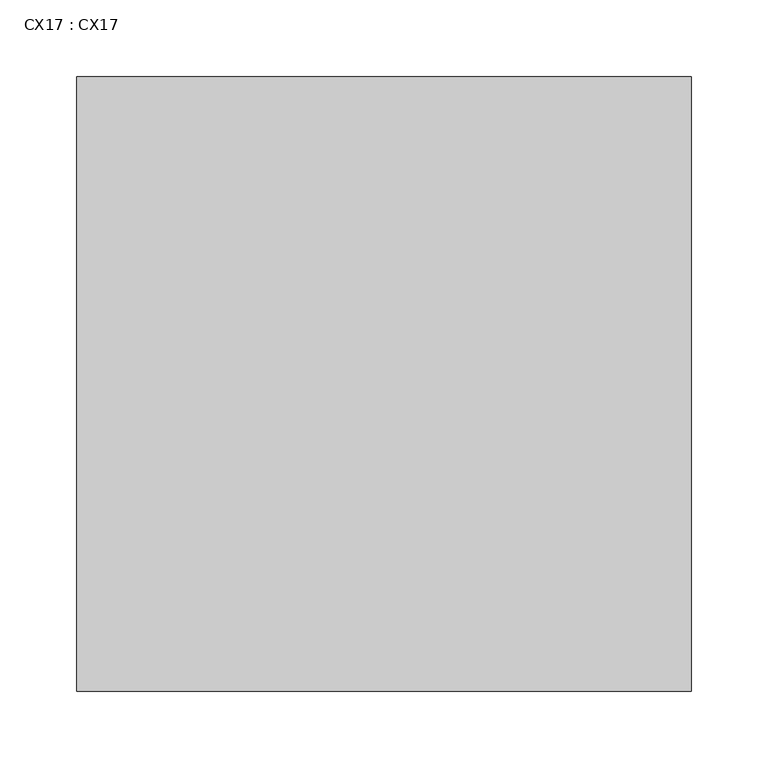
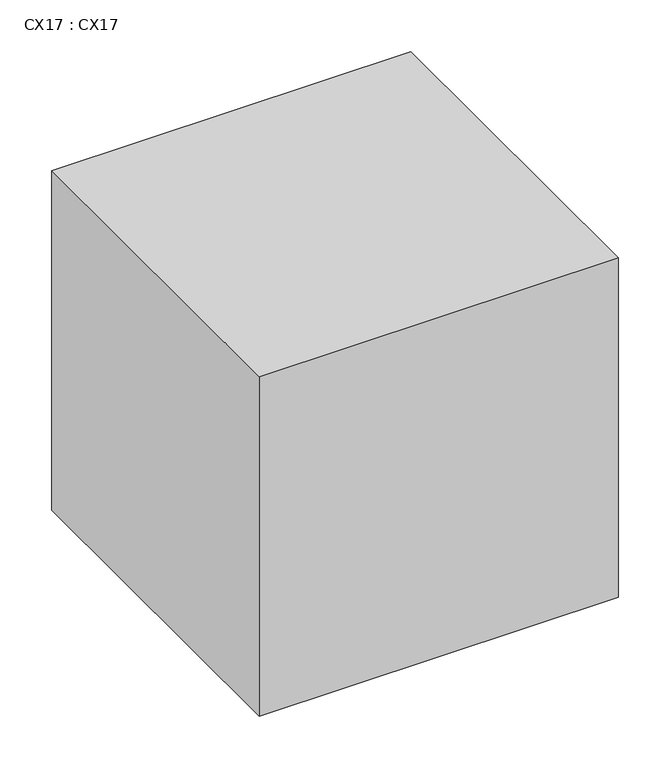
"""IFC4 building model written with IfcOpenShell, lengths in millimetres: proxy geometry, CX17 : CX17."""

from ifc_helpers import new_model, si_unit, frame, origin, place, context, project, spatial, polyline, outline, extrude, source, transform, mapped, element, save


def cx17_cx17_07a5bd3a(model_context):
    return source(origin(), model_context, "Body", "SweptSolid", [
        extrude(outline(polyline([(7046.59, 15543.2), (7046.59, 15143.2), (6646.59, 15143.2), (6646.59, 15543.2), (7046.59, 15543.2)])), frame((0.0, 0.0, -370.0), z_axis=(0.0, 0.0, 1.0), x_axis=(1.0, 0.0, 0.0)), (0.0, 0.0, 1.0), 400.0),
    ])


if __name__ == "__main__":
    model = new_model("IFC4")
    model_context = context("Model", 3, world=origin())
    ifc_project = project(units=[si_unit("LENGTHUNIT", "METRE", prefix="MILLI")], contexts=[model_context])
    site = spatial("IfcSite", under=ifc_project)
    building = spatial("IfcBuilding", under=site)
    placement = place(None, origin())
    cx17_cx17_shape = cx17_cx17_07a5bd3a(model_context)
    element("IfcBuildingElementProxy", 1, Name="CX17 : CX17", ObjectType="CX17 : CX17", at=placement, inside=building, context=model_context, shape_type="MappedRepresentation", body=[
        mapped(cx17_cx17_shape, transform((0.0, 0.0, 0.0), x_axis=(1.0, 0.0, 0.0), y_axis=(0.0, 1.0, 0.0), z_axis=(0.0, 0.0, 1.0))),
    ])
    save(model, "model.ifc")
